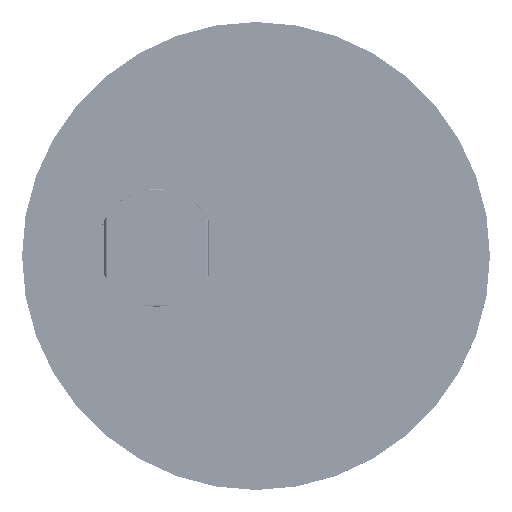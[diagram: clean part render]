
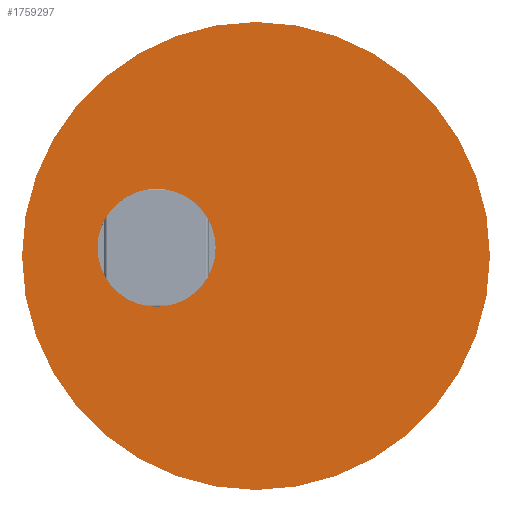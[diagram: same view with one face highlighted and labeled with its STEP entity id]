
A CAD part, top view. The second image highlights one B-rep face of the part: STEP entity #1759297.
In plain terms, the highlighted planar face has unit normal (0, 0, 1).
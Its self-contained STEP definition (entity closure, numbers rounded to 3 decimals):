
#1759179 = VERTEX_POINT('',#1759180);
#1759180 = CARTESIAN_POINT('',(20.,0.,43.481));
#1759189 = CYLINDRICAL_SURFACE('',#1759190,20.);
#1759190 = AXIS2_PLACEMENT_3D('',#1759191,#1759192,#1759193);
#1759191 = CARTESIAN_POINT('',(0.,0.,42.455));
#1759192 = DIRECTION('',(-0.,-0.,-1.));
#1759193 = DIRECTION('',(1.,0.,0.));
#1759208 = EDGE_CURVE('',#1759179,#1759179,#1759209,.T.);
#1759209 = SURFACE_CURVE('',#1759210,(#1759215,#1759222),.PCURVE_S1.);
#1759210 = CIRCLE('',#1759211,20.);
#1759211 = AXIS2_PLACEMENT_3D('',#1759212,#1759213,#1759214);
#1759212 = CARTESIAN_POINT('',(0.,0.,43.481));
#1759213 = DIRECTION('',(0.,0.,1.));
#1759214 = DIRECTION('',(1.,0.,-0.));
#1759215 = PCURVE('',#1759189,#1759216);
#1759216 = DEFINITIONAL_REPRESENTATION('',(#1759217),#1759221);
#1759217 = LINE('',#1759218,#1759219);
#1759218 = CARTESIAN_POINT('',(6.283,-1.026));
#1759219 = VECTOR('',#1759220,1.);
#1759220 = DIRECTION('',(-1.,0.));
#1759221 = ( GEOMETRIC_REPRESENTATION_CONTEXT(2) 
PARAMETRIC_REPRESENTATION_CONTEXT() REPRESENTATION_CONTEXT('2D SPACE',''
  ) );
#1759222 = PCURVE('',#1759223,#1759228);
#1759223 = PLANE('',#1759224);
#1759224 = AXIS2_PLACEMENT_3D('',#1759225,#1759226,#1759227);
#1759225 = CARTESIAN_POINT('',(0.,0.,
    43.481));
#1759226 = DIRECTION('',(0.,0.,1.));
#1759227 = DIRECTION('',(1.,0.,-0.));
#1759228 = DEFINITIONAL_REPRESENTATION('',(#1759229),#1759233);
#1759229 = CIRCLE('',#1759230,20.);
#1759230 = AXIS2_PLACEMENT_2D('',#1759231,#1759232);
#1759231 = CARTESIAN_POINT('',(0.,0.));
#1759232 = DIRECTION('',(1.,0.));
#1759233 = ( GEOMETRIC_REPRESENTATION_CONTEXT(2) 
PARAMETRIC_REPRESENTATION_CONTEXT() REPRESENTATION_CONTEXT('2D SPACE',''
  ) );
#1759297 = ADVANCED_FACE('',(#1759298,#1759301),#1759223,.T.);
#1759298 = FACE_BOUND('',#1759299,.T.);
#1759299 = EDGE_LOOP('',(#1759300));
#1759300 = ORIENTED_EDGE('',*,*,#1759208,.T.);
#1759301 = FACE_BOUND('',#1759302,.T.);
#1759302 = EDGE_LOOP('',(#1759303));
#1759303 = ORIENTED_EDGE('',*,*,#1759304,.T.);
#1759304 = EDGE_CURVE('',#1759305,#1759305,#1759307,.T.);
#1759305 = VERTEX_POINT('',#1759306);
#1759306 = CARTESIAN_POINT('',(-3.451,0.701,43.481));
#1759307 = SURFACE_CURVE('',#1759308,(#1759313,#1759324),.PCURVE_S1.);
#1759308 = CIRCLE('',#1759309,5.05);
#1759309 = AXIS2_PLACEMENT_3D('',#1759310,#1759311,#1759312);
#1759310 = CARTESIAN_POINT('',(-8.501,0.701,43.481));
#1759311 = DIRECTION('',(0.,0.,-1.));
#1759312 = DIRECTION('',(1.,0.,0.));
#1759313 = PCURVE('',#1759223,#1759314);
#1759314 = DEFINITIONAL_REPRESENTATION('',(#1759315),#1759323);
#1759315 = ( BOUNDED_CURVE() B_SPLINE_CURVE(2,(#1759316,#1759317,
    #1759318,#1759319,#1759320,#1759321,#1759322),.UNSPECIFIED.,.T.,.F.)
 B_SPLINE_CURVE_WITH_KNOTS((1,2,2,2,2,1),(-2.094,0.,
    2.094,4.189,6.283,8.378),
.UNSPECIFIED.) CURVE() GEOMETRIC_REPRESENTATION_ITEM() 
RATIONAL_B_SPLINE_CURVE((1.,0.5,1.,0.5,1.,0.5,1.)) REPRESENTATION_ITEM(
  '') );
#1759316 = CARTESIAN_POINT('',(-3.451,0.701));
#1759317 = CARTESIAN_POINT('',(-3.451,-8.046));
#1759318 = CARTESIAN_POINT('',(-11.026,-3.672));
#1759319 = CARTESIAN_POINT('',(-18.601,0.701));
#1759320 = CARTESIAN_POINT('',(-11.026,5.074));
#1759321 = CARTESIAN_POINT('',(-3.451,9.448));
#1759322 = CARTESIAN_POINT('',(-3.451,0.701));
#1759323 = ( GEOMETRIC_REPRESENTATION_CONTEXT(2) 
PARAMETRIC_REPRESENTATION_CONTEXT() REPRESENTATION_CONTEXT('2D SPACE',''
  ) );
#1759324 = PCURVE('',#1759325,#1759330);
#1759325 = CYLINDRICAL_SURFACE('',#1759326,5.05);
#1759326 = AXIS2_PLACEMENT_3D('',#1759327,#1759328,#1759329);
#1759327 = CARTESIAN_POINT('',(-8.501,0.701,41.455));
#1759328 = DIRECTION('',(-0.,-0.,-1.));
#1759329 = DIRECTION('',(1.,0.,0.));
#1759330 = DEFINITIONAL_REPRESENTATION('',(#1759331),#1759335);
#1759331 = LINE('',#1759332,#1759333);
#1759332 = CARTESIAN_POINT('',(0.,-2.026));
#1759333 = VECTOR('',#1759334,1.);
#1759334 = DIRECTION('',(1.,-0.));
#1759335 = ( GEOMETRIC_REPRESENTATION_CONTEXT(2) 
PARAMETRIC_REPRESENTATION_CONTEXT() REPRESENTATION_CONTEXT('2D SPACE',''
  ) );
